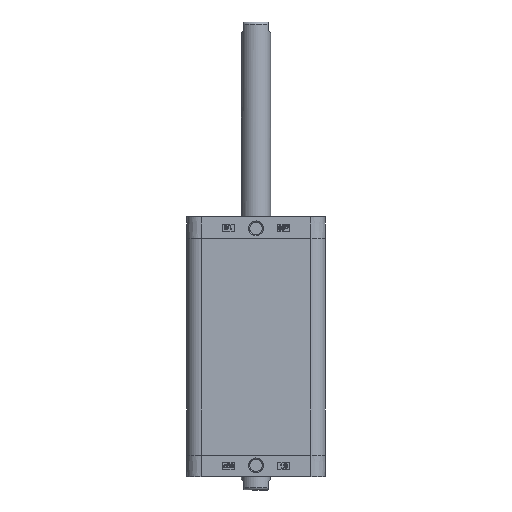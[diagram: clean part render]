
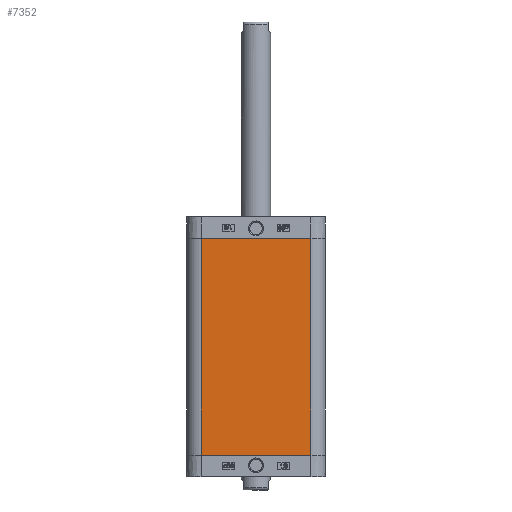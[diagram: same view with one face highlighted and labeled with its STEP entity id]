
A CAD part, left-side view. The second image highlights one B-rep face of the part: STEP entity #7352.
In plain terms, the highlighted planar face has unit normal (-1, 0, 0).
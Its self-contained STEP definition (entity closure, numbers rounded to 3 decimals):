
#735=ORIENTED_EDGE('',*,*,#2927,.T.);
#736=ORIENTED_EDGE('',*,*,#2926,.F.);
#737=ORIENTED_EDGE('',*,*,#2928,.F.);
#738=ORIENTED_EDGE('',*,*,#2929,.T.);
#2926=EDGE_CURVE('',#4022,#4019,#4780,.T.);
#2927=EDGE_CURVE('',#4023,#4019,#4781,.T.);
#2928=EDGE_CURVE('',#4024,#4022,#4782,.T.);
#2929=EDGE_CURVE('',#4024,#4023,#4783,.T.);
#4019=VERTEX_POINT('',#12787);
#4022=VERTEX_POINT('',#12792);
#4023=VERTEX_POINT('',#12796);
#4024=VERTEX_POINT('',#12798);
#4780=LINE('',#12793,#5427);
#4781=LINE('',#12795,#5428);
#4782=LINE('',#12797,#5429);
#4783=LINE('',#12799,#5430);
#5427=VECTOR('',#10757,1000.);
#5428=VECTOR('',#10760,1000.);
#5429=VECTOR('',#10761,1000.);
#5430=VECTOR('',#10762,1000.);
#6071=EDGE_LOOP('',(#735,#736,#737,#738));
#6610=FACE_BOUND('',#6071,.T.);
#7149=PLANE('',#10054);
#7352=ADVANCED_FACE('',(#6610),#7149,.T.);
#10054=AXIS2_PLACEMENT_3D('',#12794,#10758,#10759);
#10757=DIRECTION('',(0.,0.,1.));
#10758=DIRECTION('',(-1.,0.,0.));
#10759=DIRECTION('',(0.,0.,1.));
#10760=DIRECTION('',(0.,1.,0.));
#10761=DIRECTION('',(0.,1.,0.));
#10762=DIRECTION('',(0.,0.,1.));
#12787=CARTESIAN_POINT('',(-47.75,37.75,29.));
#12792=CARTESIAN_POINT('',(-47.75,37.75,-120.));
#12793=CARTESIAN_POINT('',(-47.75,37.75,0.));
#12794=CARTESIAN_POINT('',(-47.75,-37.75,0.));
#12795=CARTESIAN_POINT('',(-47.75,-37.75,29.));
#12796=CARTESIAN_POINT('',(-47.75,-37.75,29.));
#12797=CARTESIAN_POINT('',(-47.75,-37.75,-120.));
#12798=CARTESIAN_POINT('',(-47.75,-37.75,-120.));
#12799=CARTESIAN_POINT('',(-47.75,-37.75,0.));
